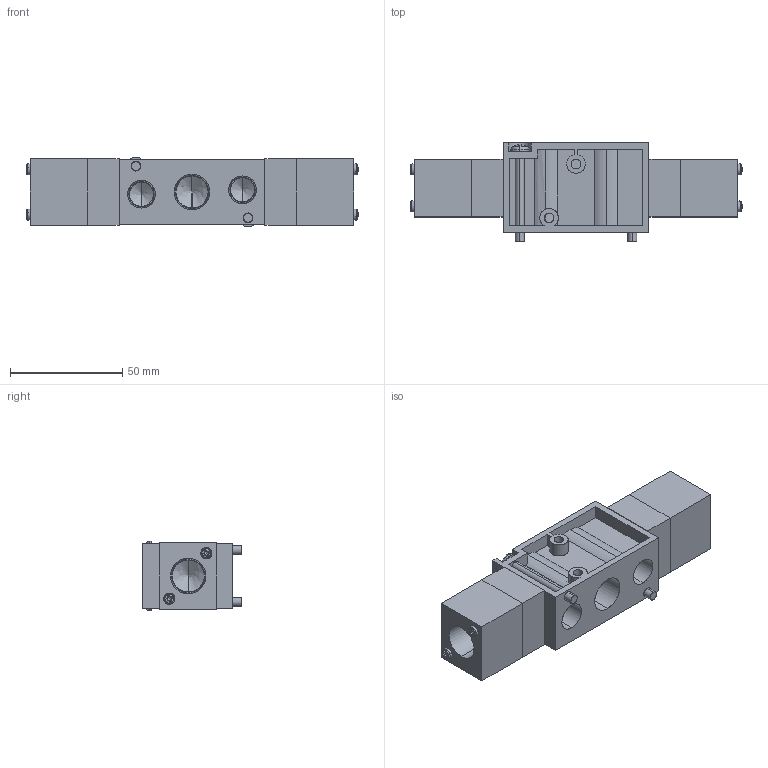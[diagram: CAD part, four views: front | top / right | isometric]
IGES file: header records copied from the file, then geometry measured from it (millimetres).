
Start section: SolidWorks IGES file using analytic representation for surfaces
Global section: file name: C:\Users\Toshiba\Desktop\YCD(E)(O)3408-03.IGS; native system: SolidWorks 2014; preprocessor: SolidWorks 2014; author: Toshiba; date: 160808.094639; units: millimetre
Bounding box: 147.89 x 44.12 x 31 mm (x, y, z)
Surface area: 35867.9 mm2 (no closed solid volume)
Topology: 0 solids, 0 shells, 424 faces, 4176 edges, 4150 vertices
Faces by surface type: bspline 276, revolution 148
